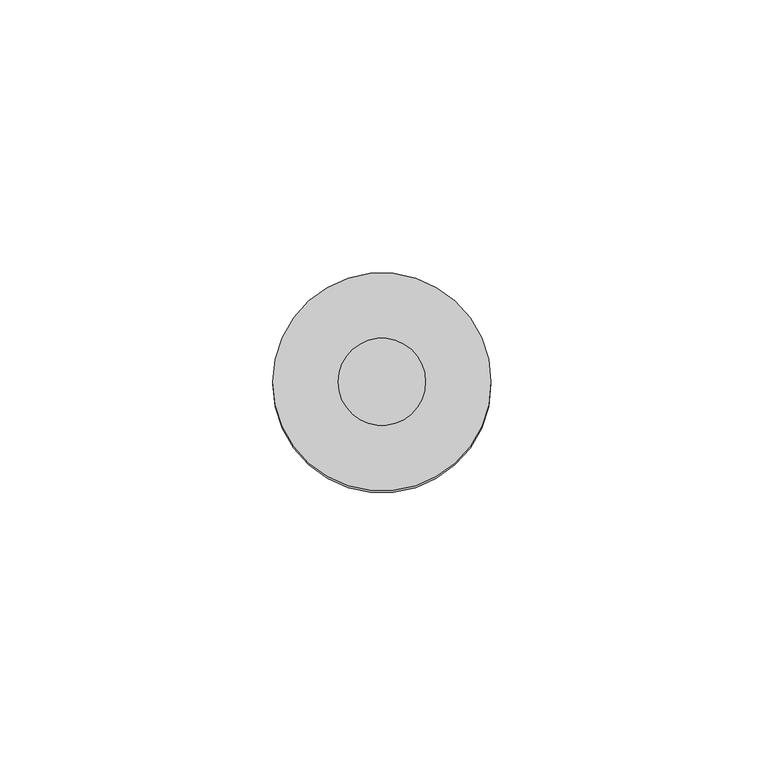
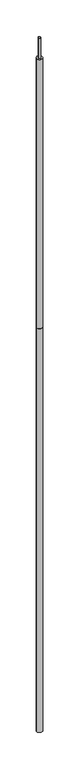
"""IFC4 building model written with IfcOpenShell, lengths in millimetres: proxy geometry, КНС_МачтаМолниеприемная_DKC : NL5000CU_Медь_5м."""

from ifc_helpers import new_model, si_unit, point, frame, origin, origin_with_axes, origin_2d, place, context, project, spatial, circle_curve, trimmed, segment, composite_curve, outline, extrude, source, transform, mapped, element, save


def security_devices_d66b258b(model_context):
    return source(origin(), model_context, "Body", "SweptSolid", [
        extrude(outline(composite_curve([segment(trimmed(circle_curve(origin_2d(), 8.0), [point((-8.0, 0.0))], [point((8.0, 0.0))], False, "CARTESIAN"), True, "CONTINUOUS"), segment(trimmed(circle_curve(origin_2d(), 8.0), [point((8.0, 0.0))], [point((-8.0, 0.0))], False, "CARTESIAN"), True, "CONTINUOUS")], self_intersect=False)), frame((0.0, 0.0, 5000.0), z_axis=(0.0, 0.0, 1.0), x_axis=(1.0, 0.0, 0.0)), (0.0, 0.0, 1.0), 150.0),
        extrude(outline(composite_curve([segment(trimmed(circle_curve(origin_2d(), 20.0), [point((-20.0, 0.0))], [point((20.0, 0.0))], False, "CARTESIAN"), True, "CONTINUOUS"), segment(trimmed(circle_curve(origin_2d(), 20.0), [point((20.0, 0.0))], [point((-20.0, 0.0))], False, "CARTESIAN"), True, "CONTINUOUS")], self_intersect=False)), frame((0.0, 0.0, 3000.0), z_axis=(0.0, 0.0, 1.0), x_axis=(1.0, 0.0, 0.0)), (0.0, 0.0, 1.0), 2000.0),
        extrude(outline(composite_curve([segment(trimmed(circle_curve(origin_2d(), 20.0), [point((-20.0, 0.0))], [point((20.0, 0.0))], False, "CARTESIAN"), True, "CONTINUOUS"), segment(trimmed(circle_curve(origin_2d(), 20.0), [point((20.0, 0.0))], [point((-20.0, 0.0))], False, "CARTESIAN"), True, "CONTINUOUS")], self_intersect=False)), origin_with_axes(), (0.0, 0.0, 1.0), 3000.0),
    ])


if __name__ == "__main__":
    model = new_model("IFC4")
    model_context = context("Model", 3, world=origin())
    ifc_project = project(units=[si_unit("LENGTHUNIT", "METRE", prefix="MILLI")], contexts=[model_context])
    site = spatial("IfcSite", under=ifc_project)
    building = spatial("IfcBuilding", under=site)
    placement = place(None, origin())
    security_devices_shape = security_devices_d66b258b(model_context)
    element("IfcBuildingElementProxy", 1, Name="КНС_МачтаМолниеприемная_DKC : NL5000CU_Медь_5м", ObjectType="КНС_МачтаМолниеприемная_DKC : NL5000CU_Медь_5м", at=placement, inside=building, context=model_context, shape_type="MappedRepresentation", body=[
        mapped(security_devices_shape, transform((0.0, 0.0, 0.0), x_axis=(1.0, 0.0, 0.0), y_axis=(0.0, 1.0, 0.0), z_axis=(0.0, 0.0, 1.0))),
    ])
    save(model, "model.ifc")
